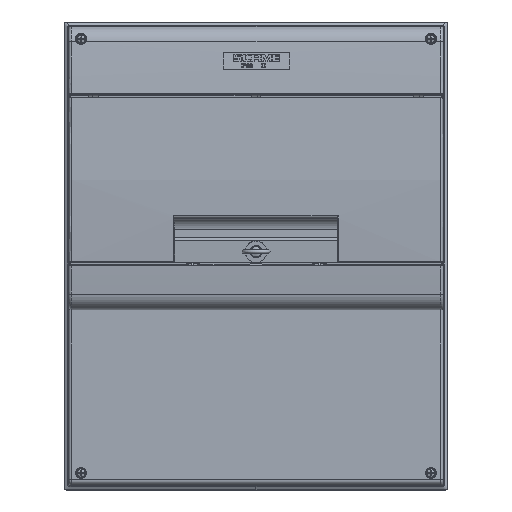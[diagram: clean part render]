
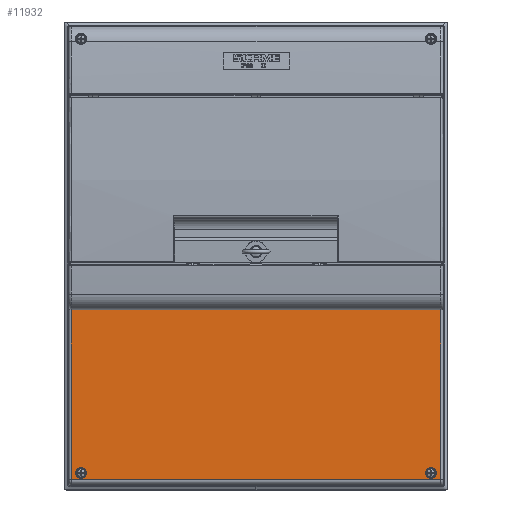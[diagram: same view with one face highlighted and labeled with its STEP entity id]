
A CAD part, top view. The second image highlights one B-rep face of the part: STEP entity #11932.
In plain terms, the highlighted planar face has unit normal (0, 0, 1).
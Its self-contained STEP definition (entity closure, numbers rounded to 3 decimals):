
#2411=FACE_BOUND('',#17450,.T.);
#2412=FACE_BOUND('',#17451,.T.);
#2413=FACE_BOUND('',#17452,.T.);
#3465=PLANE('',#49480);
#5965=LINE('',#77721,#9177);
#5967=LINE('',#77725,#9179);
#5968=LINE('',#77727,#9180);
#5969=LINE('',#77729,#9181);
#9177=VECTOR('',#59069,1.);
#9179=VECTOR('',#59073,1.);
#9180=VECTOR('',#59074,1.);
#9181=VECTOR('',#59075,1.);
#11932=ADVANCED_FACE('',(#2411,#2412,#2413),#3465,.T.);
#17450=EDGE_LOOP('',(#27373));
#17451=EDGE_LOOP('',(#27374));
#17452=EDGE_LOOP('',(#27375,#27376,#27377,#27378));
#27373=ORIENTED_EDGE('',*,*,#41267,.F.);
#27374=ORIENTED_EDGE('',*,*,#41275,.T.);
#27375=ORIENTED_EDGE('',*,*,#42002,.T.);
#27376=ORIENTED_EDGE('',*,*,#42003,.T.);
#27377=ORIENTED_EDGE('',*,*,#42004,.F.);
#27378=ORIENTED_EDGE('',*,*,#42000,.F.);
#35790=VERTEX_POINT('',#75336);
#35798=VERTEX_POINT('',#75373);
#36456=VERTEX_POINT('',#77720);
#36457=VERTEX_POINT('',#77722);
#36458=VERTEX_POINT('',#77726);
#36459=VERTEX_POINT('',#77728);
#41267=EDGE_CURVE('',#35790,#35790,#45789,.T.);
#41275=EDGE_CURVE('',#35798,#35798,#45795,.T.);
#42000=EDGE_CURVE('',#36456,#36457,#5965,.T.);
#42002=EDGE_CURVE('',#36456,#36458,#5967,.T.);
#42003=EDGE_CURVE('',#36458,#36459,#5968,.T.);
#42004=EDGE_CURVE('',#36457,#36459,#5969,.T.);
#45789=CIRCLE('',#49161,4.75);
#45795=CIRCLE('',#49170,4.75);
#49161=AXIS2_PLACEMENT_3D('',#75335,#58028,#58029);
#49170=AXIS2_PLACEMENT_3D('',#75372,#58046,#58047);
#49480=AXIS2_PLACEMENT_3D('',#77730,#59076,#59077);
#58028=DIRECTION('',(0.,0.,1.));
#58029=DIRECTION('',(0.,1.,0.));
#58046=DIRECTION('',(0.,0.,-1.));
#58047=DIRECTION('',(0.,-1.,0.));
#59069=DIRECTION('',(1.,0.,0.));
#59073=DIRECTION('',(0.,-1.,0.));
#59074=DIRECTION('',(1.,0.,0.));
#59075=DIRECTION('',(0.,-1.,0.));
#59076=DIRECTION('',(0.,0.,1.));
#59077=DIRECTION('',(0.,-1.,0.));
#75335=CARTESIAN_POINT('',(149.5,-385.5,95.5));
#75336=CARTESIAN_POINT('',(149.5,-380.75,95.5));
#75372=CARTESIAN_POINT('',(-149.5,-385.5,95.5));
#75373=CARTESIAN_POINT('',(-149.5,-390.25,95.5));
#77720=CARTESIAN_POINT('',(-158.1,-246.108,95.5));
#77721=CARTESIAN_POINT('',(-160.1,-246.108,95.5));
#77722=CARTESIAN_POINT('',(158.1,-246.108,95.5));
#77725=CARTESIAN_POINT('',(-158.1,-391.148,95.5));
#77726=CARTESIAN_POINT('',(-158.1,-391.148,95.5));
#77727=CARTESIAN_POINT('',(-160.1,-391.148,95.5));
#77728=CARTESIAN_POINT('',(158.1,-391.148,95.5));
#77729=CARTESIAN_POINT('',(158.1,-246.108,95.5));
#77730=CARTESIAN_POINT('',(-160.1,-246.108,95.5));
